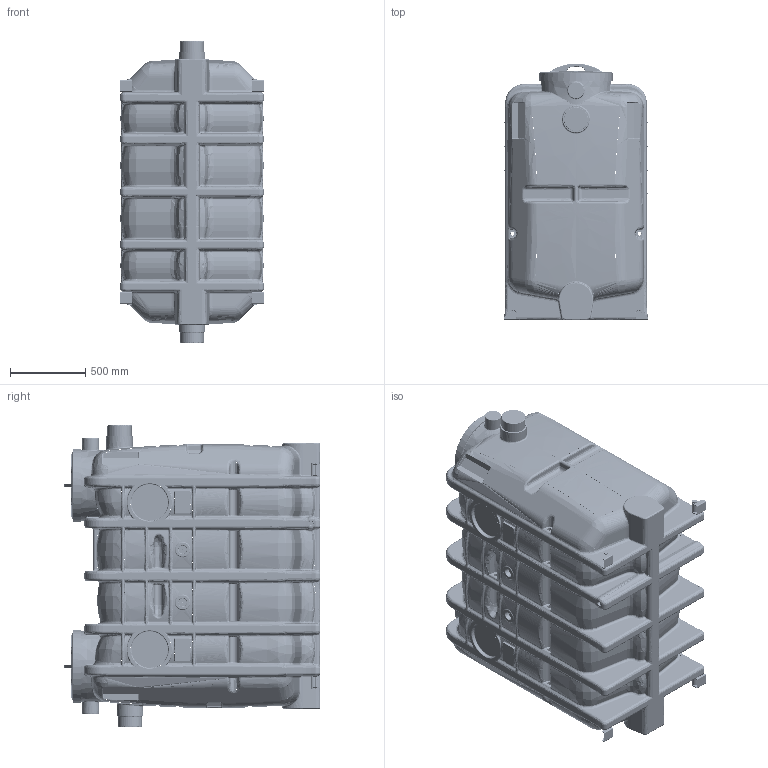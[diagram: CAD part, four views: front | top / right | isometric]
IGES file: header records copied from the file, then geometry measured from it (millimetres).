
Start section: SolidWorks IGES file using analytic representation for surfaces
Global section: file name: C:\Documents and Settings\sparagond\Desktop\35553400 _ O-BASIC.IGS; native system: SolidWorks 2010; preprocessor: SolidWorks 2010; author: sparagond; date: 101124.111250; units: millimetre
Bounding box: 950 x 1699.72 x 2000 mm (x, y, z)
Surface area: 12994388.6 mm2 (no closed solid volume)
Topology: 0 solids, 0 shells, 3796 faces, 45396 edges, 45332 vertices
Faces by surface type: bspline 2611, revolution 1185
